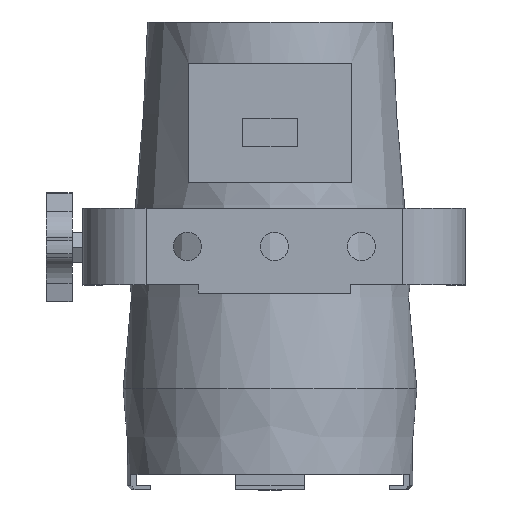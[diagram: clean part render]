
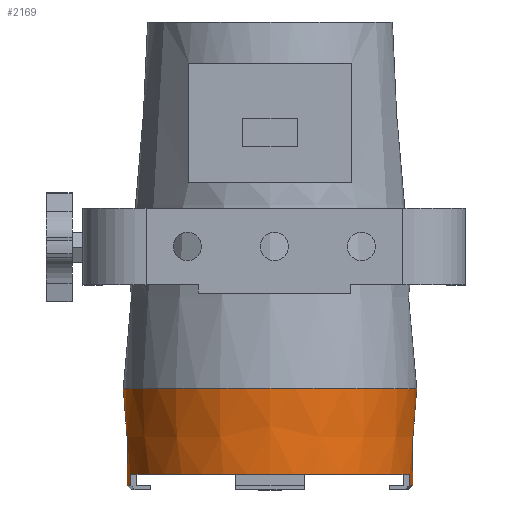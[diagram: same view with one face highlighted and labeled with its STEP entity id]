
A CAD part, top view. The second image highlights one B-rep face of the part: STEP entity #2169.
In plain terms, the highlighted conical face has half-angle 2 degrees and reference radius 66.81 mm.
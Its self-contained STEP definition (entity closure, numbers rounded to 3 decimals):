
#23=B_SPLINE_CURVE_WITH_KNOTS('',3,(#3685,#3686,#3687,#3688,#3689,#3690,
#3691),.UNSPECIFIED.,.F.,.F.,(4,3,4),(0.496,0.667,
1.),.UNSPECIFIED.);
#24=B_SPLINE_CURVE_WITH_KNOTS('',3,(#3724,#3725,#3726,#3727,#3728,#3729,
#3730),.UNSPECIFIED.,.F.,.F.,(4,3,4),(0.,0.333,0.504),
 .UNSPECIFIED.);
#25=B_SPLINE_CURVE_WITH_KNOTS('',3,(#3761,#3762,#3763,#3764,#3765,#3766,
#3767),.UNSPECIFIED.,.F.,.F.,(4,3,4),(0.,0.333,0.504),
 .UNSPECIFIED.);
#26=B_SPLINE_CURVE_WITH_KNOTS('',3,(#3791,#3792,#3793,#3794,#3795,#3796,
#3797),.UNSPECIFIED.,.F.,.F.,(4,3,4),(0.,0.333,0.504),
 .UNSPECIFIED.);
#27=B_SPLINE_CURVE_WITH_KNOTS('',3,(#3803,#3804,#3805,#3806,#3807,#3808,
#3809),.UNSPECIFIED.,.F.,.F.,(4,3,4),(0.496,0.667,
1.),.UNSPECIFIED.);
#28=B_SPLINE_CURVE_WITH_KNOTS('',3,(#3825,#3826,#3827,#3828,#3829,#3830,
#3831),.UNSPECIFIED.,.F.,.F.,(4,3,4),(0.496,0.667,
1.),.UNSPECIFIED.);
#35=CONICAL_SURFACE('',#2400,66.81,0.035);
#282=LINE('',#3838,#490);
#490=VECTOR('',#3021,66.81);
#618=FACE_OUTER_BOUND('',#747,.T.);
#747=EDGE_LOOP('',(#1964,#1965,#1966,#1967,#1968,#1969,#1970,#1971,#1972,
#1973,#1974,#1975,#1976,#1977,#1978,#1979,#1980));
#812=CIRCLE('',#2340,67.5);
#813=CIRCLE('',#2341,67.5);
#830=CIRCLE('',#2382,65.943);
#833=CIRCLE('',#2388,65.943);
#834=CIRCLE('',#2391,66.121);
#835=CIRCLE('',#2392,66.121);
#836=CIRCLE('',#2393,66.121);
#837=CIRCLE('',#2394,66.121);
#839=CIRCLE('',#2398,65.943);
#988=VERTEX_POINT('',#3475);
#989=VERTEX_POINT('',#3476);
#1012=VERTEX_POINT('',#3682);
#1013=VERTEX_POINT('',#3684);
#1025=VERTEX_POINT('',#3721);
#1026=VERTEX_POINT('',#3723);
#1037=VERTEX_POINT('',#3758);
#1038=VERTEX_POINT('',#3760);
#1043=VERTEX_POINT('',#3786);
#1044=VERTEX_POINT('',#3790);
#1045=VERTEX_POINT('',#3800);
#1046=VERTEX_POINT('',#3802);
#1047=VERTEX_POINT('',#3816);
#1048=VERTEX_POINT('',#3818);
#1049=VERTEX_POINT('',#3824);
#1268=EDGE_CURVE('',#988,#989,#812,.T.);
#1269=EDGE_CURVE('',#989,#988,#813,.T.);
#1301=EDGE_CURVE('',#1012,#1013,#23,.T.);
#1317=EDGE_CURVE('',#1025,#1026,#24,.T.);
#1332=EDGE_CURVE('',#1037,#1038,#25,.T.);
#1342=EDGE_CURVE('',#1013,#1043,#830,.T.);
#1344=EDGE_CURVE('',#1043,#1044,#26,.T.);
#1347=EDGE_CURVE('',#1045,#1046,#27,.T.);
#1350=EDGE_CURVE('',#1046,#1025,#833,.T.);
#1351=EDGE_CURVE('',#1044,#1047,#834,.T.);
#1352=EDGE_CURVE('',#1047,#1048,#835,.T.);
#1354=EDGE_CURVE('',#1038,#1045,#836,.T.);
#1355=EDGE_CURVE('',#1026,#1012,#837,.T.);
#1356=EDGE_CURVE('',#1048,#1049,#28,.T.);
#1359=EDGE_CURVE('',#1049,#1037,#839,.T.);
#1360=EDGE_CURVE('',#1047,#989,#282,.T.);
#1964=ORIENTED_EDGE('',*,*,#1354,.F.);
#1965=ORIENTED_EDGE('',*,*,#1332,.F.);
#1966=ORIENTED_EDGE('',*,*,#1359,.F.);
#1967=ORIENTED_EDGE('',*,*,#1356,.F.);
#1968=ORIENTED_EDGE('',*,*,#1352,.F.);
#1969=ORIENTED_EDGE('',*,*,#1360,.T.);
#1970=ORIENTED_EDGE('',*,*,#1269,.T.);
#1971=ORIENTED_EDGE('',*,*,#1268,.T.);
#1972=ORIENTED_EDGE('',*,*,#1360,.F.);
#1973=ORIENTED_EDGE('',*,*,#1351,.F.);
#1974=ORIENTED_EDGE('',*,*,#1344,.F.);
#1975=ORIENTED_EDGE('',*,*,#1342,.F.);
#1976=ORIENTED_EDGE('',*,*,#1301,.F.);
#1977=ORIENTED_EDGE('',*,*,#1355,.F.);
#1978=ORIENTED_EDGE('',*,*,#1317,.F.);
#1979=ORIENTED_EDGE('',*,*,#1350,.F.);
#1980=ORIENTED_EDGE('',*,*,#1347,.F.);
#2169=ADVANCED_FACE('',(#618),#35,.T.);
#2340=AXIS2_PLACEMENT_3D('',#3477,#2847,#2848);
#2341=AXIS2_PLACEMENT_3D('',#3478,#2849,#2850);
#2382=AXIS2_PLACEMENT_3D('',#3787,#2978,#2979);
#2388=AXIS2_PLACEMENT_3D('',#3813,#2993,#2994);
#2391=AXIS2_PLACEMENT_3D('',#3817,#2999,#3000);
#2392=AXIS2_PLACEMENT_3D('',#3819,#3001,#3002);
#2393=AXIS2_PLACEMENT_3D('',#3821,#3004,#3005);
#2394=AXIS2_PLACEMENT_3D('',#3822,#3006,#3007);
#2398=AXIS2_PLACEMENT_3D('',#3835,#3015,#3016);
#2400=AXIS2_PLACEMENT_3D('',#3837,#3019,#3020);
#2847=DIRECTION('center_axis',(0.,0.,-1.));
#2848=DIRECTION('ref_axis',(1.,0.,0.));
#2849=DIRECTION('center_axis',(0.,0.,-1.));
#2850=DIRECTION('ref_axis',(1.,0.,0.));
#2978=DIRECTION('center_axis',(0.,0.,-1.));
#2979=DIRECTION('ref_axis',(0.971,0.238,0.));
#2993=DIRECTION('center_axis',(0.,0.,-1.));
#2994=DIRECTION('ref_axis',(-0.238,0.971,0.));
#2999=DIRECTION('center_axis',(0.,0.,-1.));
#3000=DIRECTION('ref_axis',(1.,0.,0.));
#3001=DIRECTION('center_axis',(0.,0.,-1.));
#3002=DIRECTION('ref_axis',(1.,0.,0.));
#3004=DIRECTION('center_axis',(0.,0.,-1.));
#3005=DIRECTION('ref_axis',(1.,0.,0.));
#3006=DIRECTION('center_axis',(0.,0.,-1.));
#3007=DIRECTION('ref_axis',(1.,0.,0.));
#3015=DIRECTION('center_axis',(0.,0.,-1.));
#3016=DIRECTION('ref_axis',(-0.971,-0.238,0.));
#3019=DIRECTION('center_axis',(0.,0.,1.));
#3020=DIRECTION('ref_axis',(0.,1.,0.));
#3021=DIRECTION('',(0.,-0.035,0.999));
#3475=CARTESIAN_POINT('',(0.,67.5,-157.004));
#3476=CARTESIAN_POINT('',(0.,-67.5,-157.004));
#3477=CARTESIAN_POINT('Origin',(0.,0.,-157.004));
#3478=CARTESIAN_POINT('Origin',(0.,0.,-157.004));
#3682=CARTESIAN_POINT('',(64.183,15.89,-196.5));
#3684=CARTESIAN_POINT('',(64.044,15.713,-201.574));
#3685=CARTESIAN_POINT('Ctrl Pts',(64.183,15.89,-196.5));
#3686=CARTESIAN_POINT('Ctrl Pts',(64.167,15.871,-197.072));
#3687=CARTESIAN_POINT('Ctrl Pts',(64.152,15.851,-197.644));
#3688=CARTESIAN_POINT('Ctrl Pts',(64.136,15.831,-198.216));
#3689=CARTESIAN_POINT('Ctrl Pts',(64.105,15.791,-199.335));
#3690=CARTESIAN_POINT('Ctrl Pts',(64.075,15.752,-200.455));
#3691=CARTESIAN_POINT('Ctrl Pts',(64.044,15.713,-201.574));
#3721=CARTESIAN_POINT('',(15.713,64.044,-201.574));
#3723=CARTESIAN_POINT('',(15.89,64.183,-196.5));
#3724=CARTESIAN_POINT('Ctrl Pts',(15.713,64.044,-201.574));
#3725=CARTESIAN_POINT('Ctrl Pts',(15.752,64.075,-200.455));
#3726=CARTESIAN_POINT('Ctrl Pts',(15.791,64.105,-199.335));
#3727=CARTESIAN_POINT('Ctrl Pts',(15.831,64.136,-198.216));
#3728=CARTESIAN_POINT('Ctrl Pts',(15.851,64.152,-197.644));
#3729=CARTESIAN_POINT('Ctrl Pts',(15.871,64.167,-197.072));
#3730=CARTESIAN_POINT('Ctrl Pts',(15.89,64.183,-196.5));
#3758=CARTESIAN_POINT('',(-64.044,15.713,-201.574));
#3760=CARTESIAN_POINT('',(-64.183,15.89,-196.5));
#3761=CARTESIAN_POINT('Ctrl Pts',(-64.044,15.713,-201.574));
#3762=CARTESIAN_POINT('Ctrl Pts',(-64.075,15.752,-200.455));
#3763=CARTESIAN_POINT('Ctrl Pts',(-64.105,15.791,-199.335));
#3764=CARTESIAN_POINT('Ctrl Pts',(-64.136,15.831,-198.216));
#3765=CARTESIAN_POINT('Ctrl Pts',(-64.152,15.851,-197.644));
#3766=CARTESIAN_POINT('Ctrl Pts',(-64.167,15.871,-197.072));
#3767=CARTESIAN_POINT('Ctrl Pts',(-64.183,15.89,-196.5));
#3786=CARTESIAN_POINT('',(64.044,-15.713,-201.574));
#3787=CARTESIAN_POINT('Origin',(0.,0.,-201.574));
#3790=CARTESIAN_POINT('',(64.183,-15.89,-196.5));
#3791=CARTESIAN_POINT('Ctrl Pts',(64.044,-15.713,-201.574));
#3792=CARTESIAN_POINT('Ctrl Pts',(64.075,-15.752,-200.455));
#3793=CARTESIAN_POINT('Ctrl Pts',(64.105,-15.791,-199.335));
#3794=CARTESIAN_POINT('Ctrl Pts',(64.136,-15.831,-198.216));
#3795=CARTESIAN_POINT('Ctrl Pts',(64.152,-15.851,-197.644));
#3796=CARTESIAN_POINT('Ctrl Pts',(64.167,-15.871,-197.072));
#3797=CARTESIAN_POINT('Ctrl Pts',(64.183,-15.89,-196.5));
#3800=CARTESIAN_POINT('',(-15.89,64.183,-196.5));
#3802=CARTESIAN_POINT('',(-15.713,64.044,-201.574));
#3803=CARTESIAN_POINT('Ctrl Pts',(-15.89,64.183,-196.5));
#3804=CARTESIAN_POINT('Ctrl Pts',(-15.871,64.167,-197.072));
#3805=CARTESIAN_POINT('Ctrl Pts',(-15.851,64.152,-197.644));
#3806=CARTESIAN_POINT('Ctrl Pts',(-15.831,64.136,-198.216));
#3807=CARTESIAN_POINT('Ctrl Pts',(-15.791,64.105,-199.335));
#3808=CARTESIAN_POINT('Ctrl Pts',(-15.752,64.075,-200.455));
#3809=CARTESIAN_POINT('Ctrl Pts',(-15.713,64.044,-201.574));
#3813=CARTESIAN_POINT('Origin',(0.,0.,-201.574));
#3816=CARTESIAN_POINT('',(0.,-66.121,-196.5));
#3817=CARTESIAN_POINT('Origin',(0.,0.,-196.5));
#3818=CARTESIAN_POINT('',(-64.183,-15.89,-196.5));
#3819=CARTESIAN_POINT('Origin',(0.,0.,-196.5));
#3821=CARTESIAN_POINT('Origin',(0.,0.,-196.5));
#3822=CARTESIAN_POINT('Origin',(0.,0.,-196.5));
#3824=CARTESIAN_POINT('',(-64.044,-15.713,-201.574));
#3825=CARTESIAN_POINT('Ctrl Pts',(-64.183,-15.89,-196.5));
#3826=CARTESIAN_POINT('Ctrl Pts',(-64.167,-15.871,-197.072));
#3827=CARTESIAN_POINT('Ctrl Pts',(-64.152,-15.851,-197.644));
#3828=CARTESIAN_POINT('Ctrl Pts',(-64.136,-15.831,-198.216));
#3829=CARTESIAN_POINT('Ctrl Pts',(-64.105,-15.791,-199.335));
#3830=CARTESIAN_POINT('Ctrl Pts',(-64.075,-15.752,-200.455));
#3831=CARTESIAN_POINT('Ctrl Pts',(-64.044,-15.713,-201.574));
#3835=CARTESIAN_POINT('Origin',(0.,0.,-201.574));
#3837=CARTESIAN_POINT('Origin',(0.,0.,-176.752));
#3838=CARTESIAN_POINT('',(0.,-66.81,-176.752));
